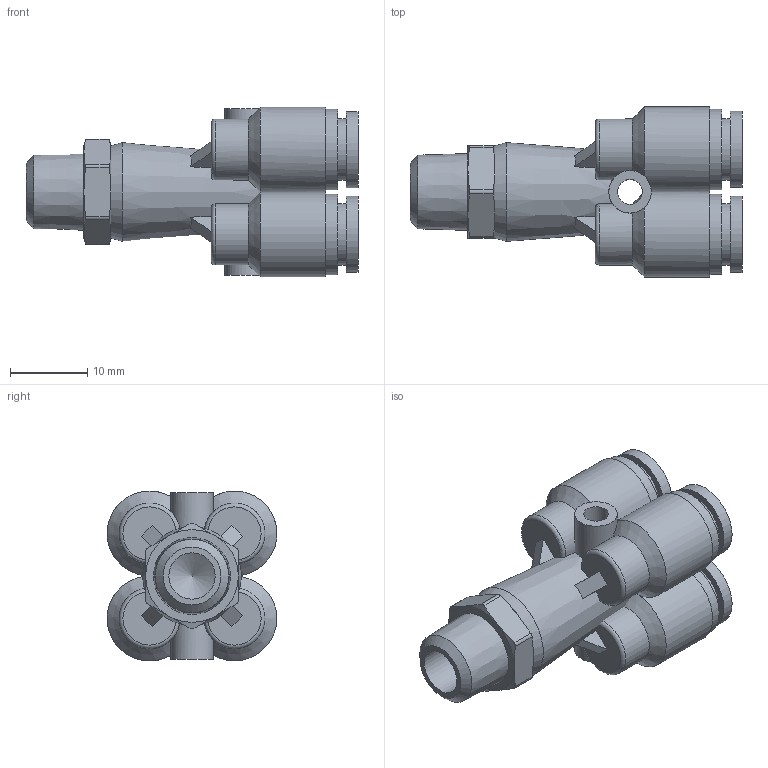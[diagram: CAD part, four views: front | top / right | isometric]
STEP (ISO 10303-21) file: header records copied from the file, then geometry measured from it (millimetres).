
FILE_DESCRIPTION((''),'2;1');
FILE_NAME('S:\UTecnico\ArchivioUT\Speciali Clienti\Speciali KONFIT\DISEGNI 3D\RP\RP 77\RP77K1804.stp','2012-12-10T11:23:50',('UT5'),(''),'Autodesk Inventor 2012','Autodesk Inventor 2012','');
FILE_SCHEMA(('AUTOMOTIVE_DESIGN { 1 0 10303 214 1 1 1 1 }'));
Length unit declared in the file: millimetre
Products named in the file (1): RP77K1804
Bounding box: 43 x 22 x 22 mm (x, y, z)
Volume: 7313.2 mm3; surface area: 5688.8 mm2
Topology: 2 solids, 2 shells, 110 faces, 244 edges, 149 vertices
Faces by surface type: plane 45, cylinder 36, cone 25, torus 4
Full cylindrical faces by diameter (mm): 3.2 x1, 4 x4, 5.5 x2, 6 x1, 7.9 x1, 8 x4, 9.85 x4, 10.4 x4, 11 x3
Entity records: 3138 total; most frequent: CARTESIAN_POINT 885, DIRECTION 444, ORIENTED_EDGE 406, AXIS2_PLACEMENT_3D 203, EDGE_CURVE 203, EDGE_LOOP 158, VERTEX_POINT 142, FACE_OUTER_BOUND 109
